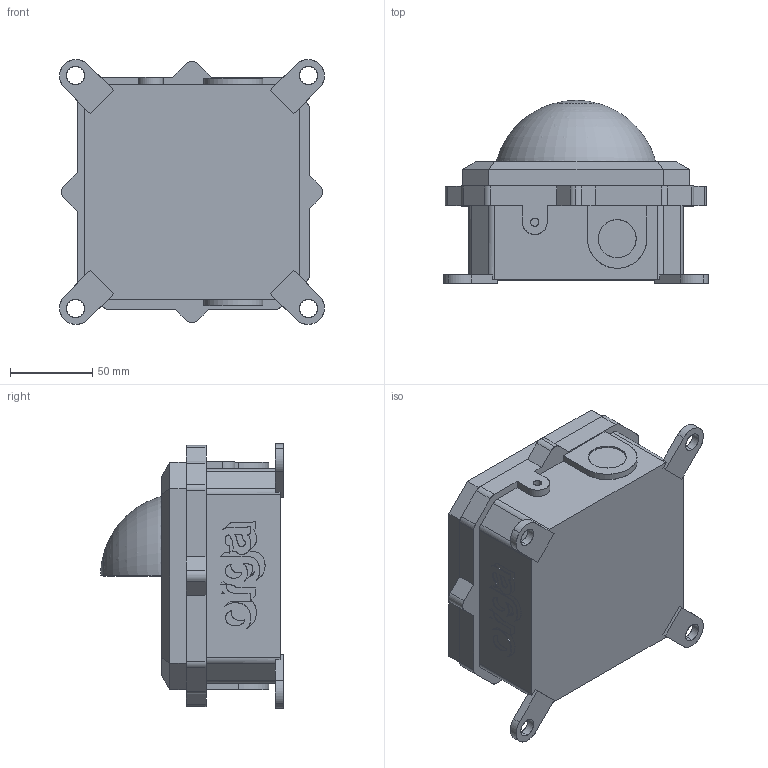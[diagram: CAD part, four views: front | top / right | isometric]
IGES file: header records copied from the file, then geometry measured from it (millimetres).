
Start section: SolidWorks IGES file using analytic representation for surfaces
Global section: file name: D:\PDM\PDM\Projects\RD1005144\3. Product\L85EX-x-xx-xxx BLOCK.igs; native system: SolidWorks 2012; preprocessor: SolidWorks 2012; author: paudij; date: 130620.105956; units: millimetre
Bounding box: 160.8 x 111 x 160.8 mm (x, y, z)
Surface area: 86269.7 mm2 (no closed solid volume)
Topology: 0 solids, 0 shells, 209 faces, 3040 edges, 3039 vertices
Faces by surface type: bspline 153, revolution 56
